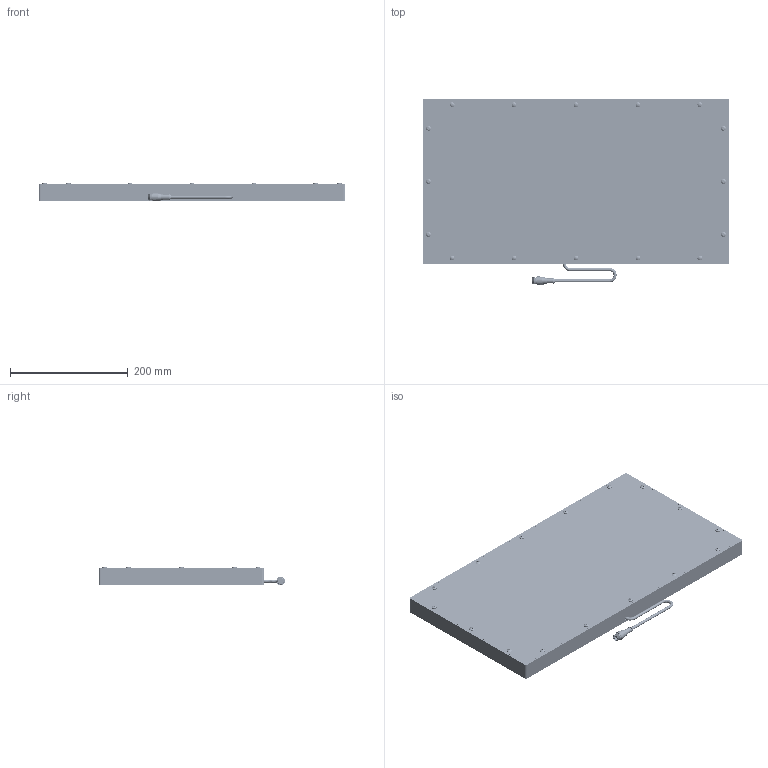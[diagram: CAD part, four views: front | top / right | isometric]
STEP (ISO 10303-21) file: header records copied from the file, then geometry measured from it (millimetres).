
FILE_DESCRIPTION (( 'STEP AP214' ), '1' );
FILE_NAME ('BL240480.STEP', '2026-06-17T02:06:06', ( '' ), ( '' ), 'SwSTEP 2.0', 'SolidWorks 2025', '' );
FILE_SCHEMA (( 'AUTOMOTIVE_DESIGN' ));
Length unit declared in the file: millimetre
Products named in the file (12): MC Pigtail 24_90 then 180 short lead out; 120 to 480 x 25mm rails_480mm no CG; 120 to 480 x 25mm rails_480mm; WD-Xmm x Xmm_240x480; 120 to 480 x 25mm rails_240mm no CG; 8-32 x 0.5 FHCS (92210A194)_92210A194; M12 Connector 4,5 and 8 pin_RS4.5T; Backplate Xmm x Xmm_240x480; 8-32 x .375 Nylon Screw_.375" 94611A192; Hex Standoff .75 x 8-32; BL240480; SC Pigtail Complete 18_5pin
Assembly tree (57 placements, depth 3):
  BL240480
    Backplate Xmm x Xmm_240x480
    120 to 480 x 25mm rails_480mm
    120 to 480 x 25mm rails_240mm no CG  x2
    120 to 480 x 25mm rails_480mm no CG
    WD-Xmm x Xmm_240x480
    SC Pigtail Complete 18_5pin
      MC Pigtail 24_90 then 180 short lead out
      M12 Connector 4,5 and 8 pin_RS4.5T
    Hex Standoff .75 x 8-32  x16
    8-32 x 0.5 FHCS (92210A194)_92210A194  x16
    8-32 x .375 Nylon Screw_.375" 94611A192  x16
Bounding box: 520 x 315.91 x 31.93 mm (x, y, z)
Volume: 1602791.6 mm3; surface area: 766278.9 mm2
Topology: 56 solids, 56 shells, 1632 faces, 3983 edges, 2529 vertices
Faces by surface type: plane 622, bspline 416, cone 275, cylinder 269, torus 29, sphere 21
Full cylindrical faces by diameter (mm): 0.762 x5, 1 x1, 3.454 x16, 4.2 x4, 4.496 x48, 5.207 x3, 6.35 x4, 6.858 x16, 8.128 x16, 8.382 x1, 8.636 x1, 9.119 x16, 10.16 x1, 10.541 x1, 11.938 x1, 13.716 x2, 14.732 x1
Entity records: 15204 total; most frequent: CARTESIAN_POINT 5625, DIRECTION 1785, ORIENTED_EDGE 1440, AXIS2_PLACEMENT_3D 750, EDGE_CURVE 720, EDGE_LOOP 635, VERTEX_POINT 545, FACE_OUTER_BOUND 460
